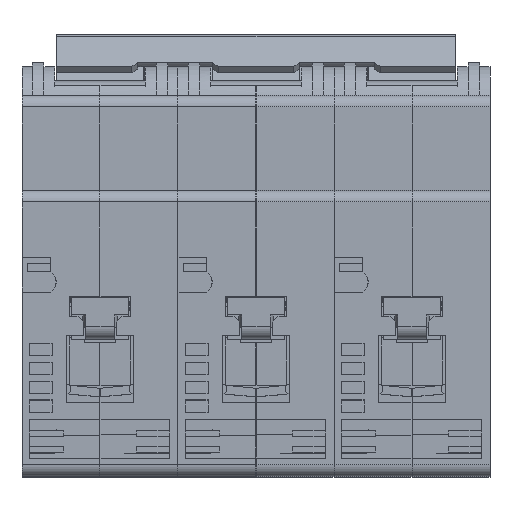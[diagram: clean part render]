
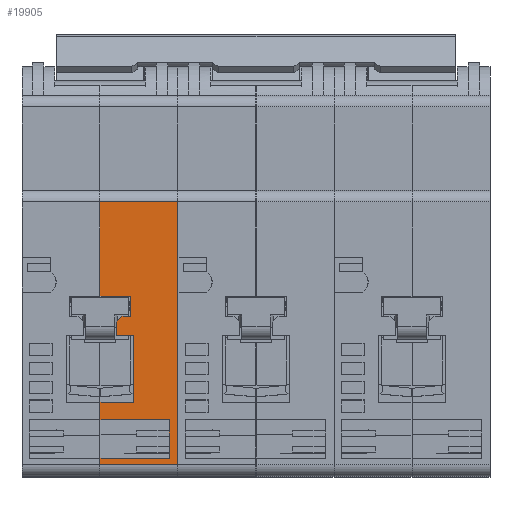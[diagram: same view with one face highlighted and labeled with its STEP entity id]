
A CAD part, top view. The second image highlights one B-rep face of the part: STEP entity #19905.
In plain terms, the highlighted planar face has unit normal (0, 0, 1).
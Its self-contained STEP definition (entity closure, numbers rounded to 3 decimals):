
#200 = VECTOR ( 'NONE', #19249, 1000. ) ;
#426 = EDGE_CURVE ( 'NONE', #16050, #21898, #6152, .T. ) ;
#443 = VERTEX_POINT ( 'NONE', #30625 ) ;
#802 = CARTESIAN_POINT ( 'NONE',  ( -13.5, -61.5, 41.2 ) ) ;
#852 = ORIENTED_EDGE ( 'NONE', *, *, #11977, .F. ) ;
#973 = CARTESIAN_POINT ( 'NONE',  ( -1.5, -60.4, 41.2 ) ) ;
#1042 = VERTEX_POINT ( 'NONE', #24997 ) ;
#1125 = EDGE_CURVE ( 'NONE', #23718, #14181, #3177, .T. ) ;
#1172 = ORIENTED_EDGE ( 'NONE', *, *, #7905, .T. ) ;
#1190 = LINE ( 'NONE', #1808, #10545 ) ;
#1690 = DIRECTION ( 'NONE',  ( 0.707, 0.707, 0. ) ) ;
#1808 = CARTESIAN_POINT ( 'NONE',  ( -13.5, -63.5, 41.2 ) ) ;
#2080 = ORIENTED_EDGE ( 'NONE', *, *, #22864, .F. ) ;
#2350 = EDGE_CURVE ( 'NONE', #6412, #14165, #24674, .T. ) ;
#3177 = LINE ( 'NONE', #7457, #10904 ) ;
#3316 = VERTEX_POINT ( 'NONE', #27748 ) ;
#3383 = CARTESIAN_POINT ( 'NONE',  ( -8.2, -35.8, 41.2 ) ) ;
#3518 = VERTEX_POINT ( 'NONE', #20665 ) ;
#3636 = DIRECTION ( 'NONE',  ( -1., 0., 0. ) ) ;
#3971 = CARTESIAN_POINT ( 'NONE',  ( -13.5, -32.3, 41.2 ) ) ;
#4516 = CARTESIAN_POINT ( 'NONE',  ( -1.5, -53.7, 41.2 ) ) ;
#4554 = CARTESIAN_POINT ( 'NONE',  ( -13.5, -63.5, 41.2 ) ) ;
#4967 = ORIENTED_EDGE ( 'NONE', *, *, #30781, .F. ) ;
#5552 = LINE ( 'NONE', #25878, #19785 ) ;
#5554 = EDGE_CURVE ( 'NONE', #31586, #1042, #14008, .T. ) ;
#6152 = LINE ( 'NONE', #24932, #19547 ) ;
#6228 = ORIENTED_EDGE ( 'NONE', *, *, #27897, .F. ) ;
#6412 = VERTEX_POINT ( 'NONE', #24119 ) ;
#6569 = EDGE_CURVE ( 'NONE', #3316, #22056, #25774, .T. ) ;
#6605 = EDGE_CURVE ( 'NONE', #11270, #21803, #26170, .T. ) ;
#6724 = EDGE_CURVE ( 'NONE', #14165, #21072, #8657, .T. ) ;
#6994 = ORIENTED_EDGE ( 'NONE', *, *, #6569, .F. ) ;
#7261 = DIRECTION ( 'NONE',  ( -1., 0., 0. ) ) ;
#7457 = CARTESIAN_POINT ( 'NONE',  ( -13.5, -61.5, 41.2 ) ) ;
#7876 = DIRECTION ( 'NONE',  ( 0., 1., 0. ) ) ;
#7905 = EDGE_CURVE ( 'NONE', #14743, #23718, #30618, .T. ) ;
#8657 = LINE ( 'NONE', #4516, #16763 ) ;
#8696 = LINE ( 'NONE', #28786, #13138 ) ;
#9596 = DIRECTION ( 'NONE',  ( 0., 1., 0. ) ) ;
#9631 = CARTESIAN_POINT ( 'NONE',  ( -10.7, -36.8, 41.2 ) ) ;
#9723 = FACE_OUTER_BOUND ( 'NONE', #13804, .T. ) ;
#10222 = VECTOR ( 'NONE', #11293, 1000. ) ;
#10545 = VECTOR ( 'NONE', #22633, 1000. ) ;
#10904 = VECTOR ( 'NONE', #33218, 1000. ) ;
#11005 = DIRECTION ( 'NONE',  ( 0., -1., 0. ) ) ;
#11270 = VERTEX_POINT ( 'NONE', #20633 ) ;
#11293 = DIRECTION ( 'NONE',  ( 0., -1., 0. ) ) ;
#11977 = EDGE_CURVE ( 'NONE', #31586, #14181, #16144, .T. ) ;
#12822 = CARTESIAN_POINT ( 'NONE',  ( -9.7, -35.8, 41.2 ) ) ;
#12852 = CARTESIAN_POINT ( 'NONE',  ( 0., -61.5, 41.2 ) ) ;
#13138 = VECTOR ( 'NONE', #29705, 1000. ) ;
#13436 = LINE ( 'NONE', #23467, #24476 ) ;
#13470 = LINE ( 'NONE', #21561, #10222 ) ;
#13542 = VECTOR ( 'NONE', #22889, 1000. ) ;
#13804 = EDGE_LOOP ( 'NONE', ( #6994, #15037, #6228, #14460, #4967, #24840, #2080, #27978, #32879, #30629, #32465, #29622, #1172, #14304, #852, #19443, #17122 ) ) ;
#14008 = LINE ( 'NONE', #29712, #200 ) ;
#14165 = VERTEX_POINT ( 'NONE', #33778 ) ;
#14181 = VERTEX_POINT ( 'NONE', #12852 ) ;
#14304 = ORIENTED_EDGE ( 'NONE', *, *, #1125, .T. ) ;
#14324 = EDGE_CURVE ( 'NONE', #31444, #3316, #16017, .T. ) ;
#14460 = ORIENTED_EDGE ( 'NONE', *, *, #6605, .F. ) ;
#14743 = VERTEX_POINT ( 'NONE', #31286 ) ;
#14915 = CARTESIAN_POINT ( 'NONE',  ( -7.7, -50.7, 41.2 ) ) ;
#15037 = ORIENTED_EDGE ( 'NONE', *, *, #14324, .F. ) ;
#15368 = DIRECTION ( 'NONE',  ( 1., 0., 0. ) ) ;
#16017 = LINE ( 'NONE', #18683, #21331 ) ;
#16050 = VERTEX_POINT ( 'NONE', #16239 ) ;
#16144 = LINE ( 'NONE', #26978, #29191 ) ;
#16239 = CARTESIAN_POINT ( 'NONE',  ( -13.5, -50.7, 41.2 ) ) ;
#16420 = DIRECTION ( 'NONE',  ( 0., 1., 0. ) ) ;
#16763 = VECTOR ( 'NONE', #7261, 1000. ) ;
#17088 = EDGE_CURVE ( 'NONE', #6412, #14743, #8696, .T. ) ;
#17122 = ORIENTED_EDGE ( 'NONE', *, *, #30373, .T. ) ;
#17304 = VECTOR ( 'NONE', #16420, 1000. ) ;
#18683 = CARTESIAN_POINT ( 'NONE',  ( -8.2, -32.3, 41.2 ) ) ;
#18695 = LINE ( 'NONE', #14915, #24773 ) ;
#18894 = CARTESIAN_POINT ( 'NONE',  ( -13.5, -32.3, 41.2 ) ) ;
#19249 = DIRECTION ( 'NONE',  ( -1., 0., 0. ) ) ;
#19434 = CARTESIAN_POINT ( 'NONE',  ( 0., -16., 41.2 ) ) ;
#19443 = ORIENTED_EDGE ( 'NONE', *, *, #5554, .T. ) ;
#19547 = VECTOR ( 'NONE', #20479, 1000. ) ;
#19574 = CARTESIAN_POINT ( 'NONE',  ( -13.5, -63.5, 41.2 ) ) ;
#19688 = PLANE ( 'NONE',  #22899 ) ;
#19785 = VECTOR ( 'NONE', #15368, 1000. ) ;
#19905 = ADVANCED_FACE ( 'NONE', ( #9723 ), #19688, .T. ) ;
#20047 = EDGE_CURVE ( 'NONE', #16050, #21072, #1190, .T. ) ;
#20479 = DIRECTION ( 'NONE',  ( 1., 0., 0. ) ) ;
#20633 = CARTESIAN_POINT ( 'NONE',  ( -10.7, -36.8, 41.2 ) ) ;
#20665 = CARTESIAN_POINT ( 'NONE',  ( -10.7, -39.1, 41.2 ) ) ;
#21072 = VERTEX_POINT ( 'NONE', #30314 ) ;
#21331 = VECTOR ( 'NONE', #31792, 1000. ) ;
#21561 = CARTESIAN_POINT ( 'NONE',  ( -13.5, -63.5, 41.2 ) ) ;
#21686 = VECTOR ( 'NONE', #1690, 1000. ) ;
#21803 = VERTEX_POINT ( 'NONE', #12822 ) ;
#21898 = VERTEX_POINT ( 'NONE', #25736 ) ;
#22056 = VERTEX_POINT ( 'NONE', #18894 ) ;
#22128 = LINE ( 'NONE', #27474, #13542 ) ;
#22633 = DIRECTION ( 'NONE',  ( 0., -1., 0. ) ) ;
#22767 = DIRECTION ( 'NONE',  ( 0., -1., 0. ) ) ;
#22864 = EDGE_CURVE ( 'NONE', #21898, #443, #18695, .T. ) ;
#22889 = DIRECTION ( 'NONE',  ( -1., 0., 0. ) ) ;
#22899 = AXIS2_PLACEMENT_3D ( 'NONE', #19574, #27444, #24475 ) ;
#23396 = EDGE_CURVE ( 'NONE', #443, #3518, #22128, .T. ) ;
#23467 = CARTESIAN_POINT ( 'NONE',  ( -10.7, -39.1, 41.2 ) ) ;
#23718 = VERTEX_POINT ( 'NONE', #802 ) ;
#24119 = CARTESIAN_POINT ( 'NONE',  ( -1.5, -60.4, 41.2 ) ) ;
#24475 = DIRECTION ( 'NONE',  ( 1., 0., 0. ) ) ;
#24476 = VECTOR ( 'NONE', #7876, 1000. ) ;
#24674 = LINE ( 'NONE', #973, #17304 ) ;
#24773 = VECTOR ( 'NONE', #9596, 1000. ) ;
#24840 = ORIENTED_EDGE ( 'NONE', *, *, #23396, .F. ) ;
#24932 = CARTESIAN_POINT ( 'NONE',  ( -7.7, -50.7, 41.2 ) ) ;
#24997 = CARTESIAN_POINT ( 'NONE',  ( -13.5, -16., 41.2 ) ) ;
#25736 = CARTESIAN_POINT ( 'NONE',  ( -7.7, -50.7, 41.2 ) ) ;
#25774 = LINE ( 'NONE', #3971, #28614 ) ;
#25878 = CARTESIAN_POINT ( 'NONE',  ( -9.7, -35.8, 41.2 ) ) ;
#26170 = LINE ( 'NONE', #9631, #21686 ) ;
#26978 = CARTESIAN_POINT ( 'NONE',  ( 0., -63.5, 41.2 ) ) ;
#27444 = DIRECTION ( 'NONE',  ( 0., 0., 1. ) ) ;
#27474 = CARTESIAN_POINT ( 'NONE',  ( -10.7, -39.1, 41.2 ) ) ;
#27748 = CARTESIAN_POINT ( 'NONE',  ( -8.2, -32.3, 41.2 ) ) ;
#27897 = EDGE_CURVE ( 'NONE', #21803, #31444, #5552, .T. ) ;
#27978 = ORIENTED_EDGE ( 'NONE', *, *, #426, .F. ) ;
#28614 = VECTOR ( 'NONE', #3636, 1000. ) ;
#28786 = CARTESIAN_POINT ( 'NONE',  ( -1.5, -60.4, 41.2 ) ) ;
#29191 = VECTOR ( 'NONE', #11005, 1000. ) ;
#29622 = ORIENTED_EDGE ( 'NONE', *, *, #17088, .T. ) ;
#29705 = DIRECTION ( 'NONE',  ( -1., 0., 0. ) ) ;
#29712 = CARTESIAN_POINT ( 'NONE',  ( -13.5, -16., 41.2 ) ) ;
#30314 = CARTESIAN_POINT ( 'NONE',  ( -13.5, -53.7, 41.2 ) ) ;
#30373 = EDGE_CURVE ( 'NONE', #1042, #22056, #13470, .T. ) ;
#30618 = LINE ( 'NONE', #4554, #32669 ) ;
#30625 = CARTESIAN_POINT ( 'NONE',  ( -7.7, -39.1, 41.2 ) ) ;
#30629 = ORIENTED_EDGE ( 'NONE', *, *, #6724, .F. ) ;
#30781 = EDGE_CURVE ( 'NONE', #3518, #11270, #13436, .T. ) ;
#31286 = CARTESIAN_POINT ( 'NONE',  ( -13.5, -60.4, 41.2 ) ) ;
#31444 = VERTEX_POINT ( 'NONE', #3383 ) ;
#31586 = VERTEX_POINT ( 'NONE', #19434 ) ;
#31792 = DIRECTION ( 'NONE',  ( 0., 1., 0. ) ) ;
#32465 = ORIENTED_EDGE ( 'NONE', *, *, #2350, .F. ) ;
#32669 = VECTOR ( 'NONE', #22767, 1000. ) ;
#32879 = ORIENTED_EDGE ( 'NONE', *, *, #20047, .T. ) ;
#33218 = DIRECTION ( 'NONE',  ( 1., 0., 0. ) ) ;
#33778 = CARTESIAN_POINT ( 'NONE',  ( -1.5, -53.7, 41.2 ) ) ;
